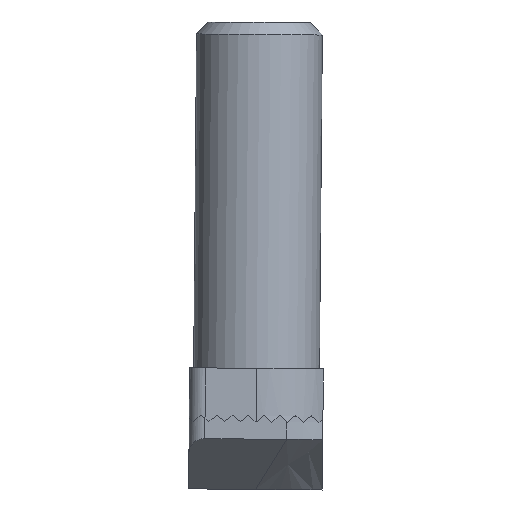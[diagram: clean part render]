
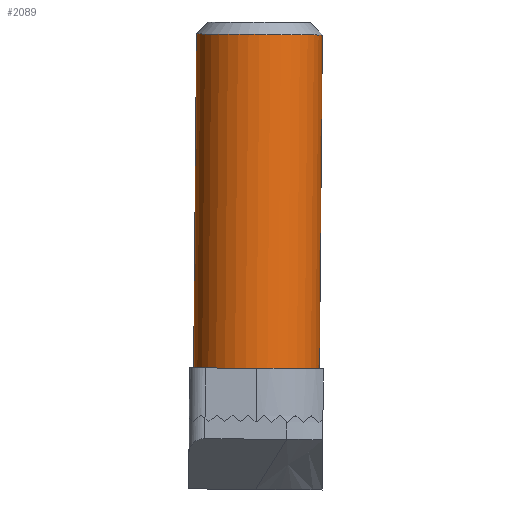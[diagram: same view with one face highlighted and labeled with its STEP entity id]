
A CAD part, left-side view. The second image highlights one B-rep face of the part: STEP entity #2089.
In plain terms, the highlighted cylindrical face has radius 4 mm (diameter 8 mm), a partial arc.
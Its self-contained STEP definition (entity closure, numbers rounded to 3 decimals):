
#96 = ORIENTED_EDGE ( 'NONE', *, *, #2650, .T. ) ;
#127 = CARTESIAN_POINT ( 'NONE',  ( 0., 10.212, -7.15 ) ) ;
#145 = DIRECTION ( 'NONE',  ( 0., -0.009, 1. ) ) ;
#169 = CARTESIAN_POINT ( 'NONE',  ( 0., 6.021, 14.815 ) ) ;
#257 = CARTESIAN_POINT ( 'NONE',  ( 0., 10.02, 14.849 ) ) ;
#360 = CARTESIAN_POINT ( 'NONE',  ( 0., 6.027, 14.048 ) ) ;
#514 = DIRECTION ( 'NONE',  ( 0., -0.009, 1. ) ) ;
#559 = ORIENTED_EDGE ( 'NONE', *, *, #908, .F. ) ;
#612 = AXIS2_PLACEMENT_3D ( 'NONE', #2575, #145, #1035 ) ;
#826 = AXIS2_PLACEMENT_3D ( 'NONE', #127, #1929, #837 ) ;
#837 = DIRECTION ( 'NONE',  ( 0., -1., -0.009 ) ) ;
#861 = LINE ( 'NONE', #169, #1663 ) ;
#865 = VERTEX_POINT ( 'NONE', #2743 ) ;
#891 = EDGE_LOOP ( 'NONE', ( #2182, #96, #2590, #559 ) ) ;
#908 = EDGE_CURVE ( 'NONE', #943, #909, #1269, .T. ) ;
#909 = VERTEX_POINT ( 'NONE', #360 ) ;
#943 = VERTEX_POINT ( 'NONE', #2366 ) ;
#1035 = DIRECTION ( 'NONE',  ( 0., -1., -0.009 ) ) ;
#1243 = CARTESIAN_POINT ( 'NONE',  ( 0., 14.212, -7.115 ) ) ;
#1269 = CIRCLE ( 'NONE', #612, 4. ) ;
#1372 = EDGE_CURVE ( 'NONE', #1442, #943, #2762, .T. ) ;
#1391 = FACE_OUTER_BOUND ( 'NONE', #891, .T. ) ;
#1442 = VERTEX_POINT ( 'NONE', #1243 ) ;
#1513 = VECTOR ( 'NONE', #1862, 1000. ) ;
#1614 = DIRECTION ( 'NONE',  ( 0., -1., -0.009 ) ) ;
#1663 = VECTOR ( 'NONE', #2659, 1000. ) ;
#1862 = DIRECTION ( 'NONE',  ( 0., -0.009, 1. ) ) ;
#1929 = DIRECTION ( 'NONE',  ( 0., -0.009, 1. ) ) ;
#2018 = EDGE_CURVE ( 'NONE', #865, #909, #861, .T. ) ;
#2089 = ADVANCED_FACE ( 'NONE', ( #1391 ), #2493, .T. ) ;
#2182 = ORIENTED_EDGE ( 'NONE', *, *, #1372, .F. ) ;
#2318 = CARTESIAN_POINT ( 'NONE',  ( 0., 14.02, 14.884 ) ) ;
#2366 = CARTESIAN_POINT ( 'NONE',  ( 0., 14.027, 14.117 ) ) ;
#2424 = CIRCLE ( 'NONE', #826, 4. ) ;
#2493 = CYLINDRICAL_SURFACE ( 'NONE', #2558, 4. ) ;
#2558 = AXIS2_PLACEMENT_3D ( 'NONE', #257, #514, #1614 ) ;
#2575 = CARTESIAN_POINT ( 'NONE',  ( 0., 10.027, 14.082 ) ) ;
#2590 = ORIENTED_EDGE ( 'NONE', *, *, #2018, .T. ) ;
#2650 = EDGE_CURVE ( 'NONE', #1442, #865, #2424, .T. ) ;
#2659 = DIRECTION ( 'NONE',  ( 0., -0.009, 1. ) ) ;
#2743 = CARTESIAN_POINT ( 'NONE',  ( 0., 6.213, -7.185 ) ) ;
#2762 = LINE ( 'NONE', #2318, #1513 ) ;
